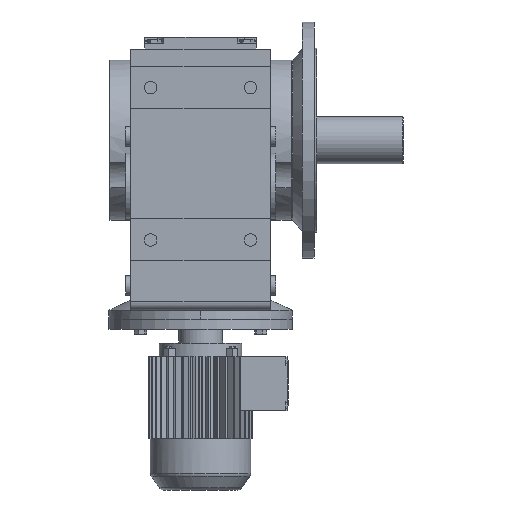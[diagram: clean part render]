
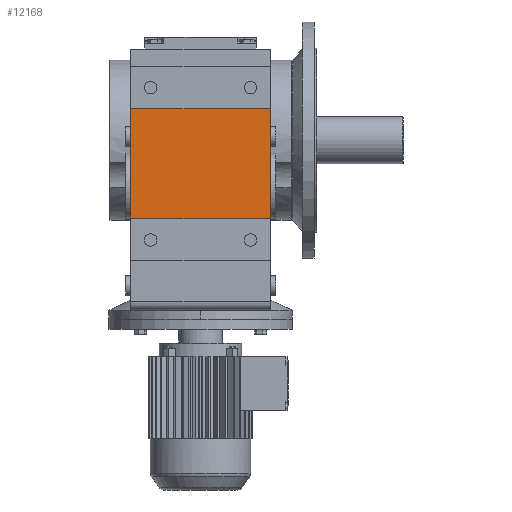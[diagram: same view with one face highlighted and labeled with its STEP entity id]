
A CAD part, front view. The second image highlights one B-rep face of the part: STEP entity #12168.
In plain terms, the highlighted planar face has unit normal (0, -1, 0).
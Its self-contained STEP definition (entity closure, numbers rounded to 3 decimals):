
#1051 = PLANE('',#1052);
#1052 = AXIS2_PLACEMENT_3D('',#1053,#1054,#1055);
#1053 = CARTESIAN_POINT('',(-133.,-287.975,-307.95));
#1054 = DIRECTION('',(-1.,0.,0.));
#1055 = DIRECTION('',(0.,0.,1.));
#5694 = VERTEX_POINT('',#5695);
#5695 = CARTESIAN_POINT('',(-133.,-303.975,-150.));
#5709 = PLANE('',#5710);
#5710 = AXIS2_PLACEMENT_3D('',#5711,#5712,#5713);
#5711 = CARTESIAN_POINT('',(-133.,-303.975,-150.));
#5712 = DIRECTION('',(0.,0.,1.));
#5713 = DIRECTION('',(0.,-1.,0.));
#5721 = EDGE_CURVE('',#5722,#5694,#5724,.T.);
#5722 = VERTEX_POINT('',#5723);
#5723 = CARTESIAN_POINT('',(-133.,-303.975,60.));
#5724 = SURFACE_CURVE('',#5725,(#5729,#5736),.PCURVE_S1.);
#5725 = LINE('',#5726,#5727);
#5726 = CARTESIAN_POINT('',(-133.,-303.975,60.));
#5727 = VECTOR('',#5728,1.);
#5728 = DIRECTION('',(0.,0.,-1.));
#5729 = PCURVE('',#1051,#5730);
#5730 = DEFINITIONAL_REPRESENTATION('',(#5731),#5735);
#5731 = LINE('',#5732,#5733);
#5732 = CARTESIAN_POINT('',(367.95,-16.));
#5733 = VECTOR('',#5734,1.);
#5734 = DIRECTION('',(-1.,0.));
#5735 = ( GEOMETRIC_REPRESENTATION_CONTEXT(2) 
PARAMETRIC_REPRESENTATION_CONTEXT() REPRESENTATION_CONTEXT('2D SPACE',''
  ) );
#5736 = PCURVE('',#5737,#5742);
#5737 = PLANE('',#5738);
#5738 = AXIS2_PLACEMENT_3D('',#5739,#5740,#5741);
#5739 = CARTESIAN_POINT('',(-133.,-303.975,60.));
#5740 = DIRECTION('',(0.,-1.,0.));
#5741 = DIRECTION('',(0.,0.,-1.));
#5742 = DEFINITIONAL_REPRESENTATION('',(#5743),#5747);
#5743 = LINE('',#5744,#5745);
#5744 = CARTESIAN_POINT('',(0.,0.));
#5745 = VECTOR('',#5746,1.);
#5746 = DIRECTION('',(1.,0.));
#5747 = ( GEOMETRIC_REPRESENTATION_CONTEXT(2) 
PARAMETRIC_REPRESENTATION_CONTEXT() REPRESENTATION_CONTEXT('2D SPACE',''
  ) );
#5765 = PLANE('',#5766);
#5766 = AXIS2_PLACEMENT_3D('',#5767,#5768,#5769);
#5767 = CARTESIAN_POINT('',(-133.,-303.975,60.));
#5768 = DIRECTION('',(0.,0.,-1.));
#5769 = DIRECTION('',(-1.,0.,0.));
#10228 = PLANE('',#10229);
#10229 = AXIS2_PLACEMENT_3D('',#10230,#10231,#10232);
#10230 = CARTESIAN_POINT('',(133.,-287.975,-307.95));
#10231 = DIRECTION('',(-1.,0.,0.));
#10232 = DIRECTION('',(0.,0.,1.));
#11236 = VERTEX_POINT('',#11237);
#11237 = CARTESIAN_POINT('',(133.,-303.975,-150.));
#11258 = EDGE_CURVE('',#5694,#11236,#11259,.T.);
#11259 = SURFACE_CURVE('',#11260,(#11264,#11271),.PCURVE_S1.);
#11260 = LINE('',#11261,#11262);
#11261 = CARTESIAN_POINT('',(-133.,-303.975,-150.));
#11262 = VECTOR('',#11263,1.);
#11263 = DIRECTION('',(1.,0.,0.));
#11264 = PCURVE('',#5709,#11265);
#11265 = DEFINITIONAL_REPRESENTATION('',(#11266),#11270);
#11266 = LINE('',#11267,#11268);
#11267 = CARTESIAN_POINT('',(0.,0.));
#11268 = VECTOR('',#11269,1.);
#11269 = DIRECTION('',(0.,1.));
#11270 = ( GEOMETRIC_REPRESENTATION_CONTEXT(2) 
PARAMETRIC_REPRESENTATION_CONTEXT() REPRESENTATION_CONTEXT('2D SPACE',''
  ) );
#11271 = PCURVE('',#5737,#11272);
#11272 = DEFINITIONAL_REPRESENTATION('',(#11273),#11277);
#11273 = LINE('',#11274,#11275);
#11274 = CARTESIAN_POINT('',(210.,0.));
#11275 = VECTOR('',#11276,1.);
#11276 = DIRECTION('',(0.,1.));
#11277 = ( GEOMETRIC_REPRESENTATION_CONTEXT(2) 
PARAMETRIC_REPRESENTATION_CONTEXT() REPRESENTATION_CONTEXT('2D SPACE',''
  ) );
#11783 = EDGE_CURVE('',#5722,#11784,#11786,.T.);
#11784 = VERTEX_POINT('',#11785);
#11785 = CARTESIAN_POINT('',(133.,-303.975,60.));
#11786 = SURFACE_CURVE('',#11787,(#11791,#11798),.PCURVE_S1.);
#11787 = LINE('',#11788,#11789);
#11788 = CARTESIAN_POINT('',(-133.,-303.975,60.));
#11789 = VECTOR('',#11790,1.);
#11790 = DIRECTION('',(1.,0.,0.));
#11791 = PCURVE('',#5765,#11792);
#11792 = DEFINITIONAL_REPRESENTATION('',(#11793),#11797);
#11793 = LINE('',#11794,#11795);
#11794 = CARTESIAN_POINT('',(0.,0.));
#11795 = VECTOR('',#11796,1.);
#11796 = DIRECTION('',(-1.,0.));
#11797 = ( GEOMETRIC_REPRESENTATION_CONTEXT(2) 
PARAMETRIC_REPRESENTATION_CONTEXT() REPRESENTATION_CONTEXT('2D SPACE',''
  ) );
#11798 = PCURVE('',#5737,#11799);
#11799 = DEFINITIONAL_REPRESENTATION('',(#11800),#11804);
#11800 = LINE('',#11801,#11802);
#11801 = CARTESIAN_POINT('',(0.,0.));
#11802 = VECTOR('',#11803,1.);
#11803 = DIRECTION('',(0.,1.));
#11804 = ( GEOMETRIC_REPRESENTATION_CONTEXT(2) 
PARAMETRIC_REPRESENTATION_CONTEXT() REPRESENTATION_CONTEXT('2D SPACE',''
  ) );
#12168 = ADVANCED_FACE('',(#12169),#5737,.T.);
#12169 = FACE_BOUND('',#12170,.T.);
#12170 = EDGE_LOOP('',(#12171,#12172,#12193,#12194));
#12171 = ORIENTED_EDGE('',*,*,#11258,.T.);
#12172 = ORIENTED_EDGE('',*,*,#12173,.F.);
#12173 = EDGE_CURVE('',#11784,#11236,#12174,.T.);
#12174 = SURFACE_CURVE('',#12175,(#12179,#12186),.PCURVE_S1.);
#12175 = LINE('',#12176,#12177);
#12176 = CARTESIAN_POINT('',(133.,-303.975,60.));
#12177 = VECTOR('',#12178,1.);
#12178 = DIRECTION('',(0.,0.,-1.));
#12179 = PCURVE('',#5737,#12180);
#12180 = DEFINITIONAL_REPRESENTATION('',(#12181),#12185);
#12181 = LINE('',#12182,#12183);
#12182 = CARTESIAN_POINT('',(0.,266.));
#12183 = VECTOR('',#12184,1.);
#12184 = DIRECTION('',(1.,0.));
#12185 = ( GEOMETRIC_REPRESENTATION_CONTEXT(2) 
PARAMETRIC_REPRESENTATION_CONTEXT() REPRESENTATION_CONTEXT('2D SPACE',''
  ) );
#12186 = PCURVE('',#10228,#12187);
#12187 = DEFINITIONAL_REPRESENTATION('',(#12188),#12192);
#12188 = LINE('',#12189,#12190);
#12189 = CARTESIAN_POINT('',(367.95,-16.));
#12190 = VECTOR('',#12191,1.);
#12191 = DIRECTION('',(-1.,0.));
#12192 = ( GEOMETRIC_REPRESENTATION_CONTEXT(2) 
PARAMETRIC_REPRESENTATION_CONTEXT() REPRESENTATION_CONTEXT('2D SPACE',''
  ) );
#12193 = ORIENTED_EDGE('',*,*,#11783,.F.);
#12194 = ORIENTED_EDGE('',*,*,#5721,.T.);
